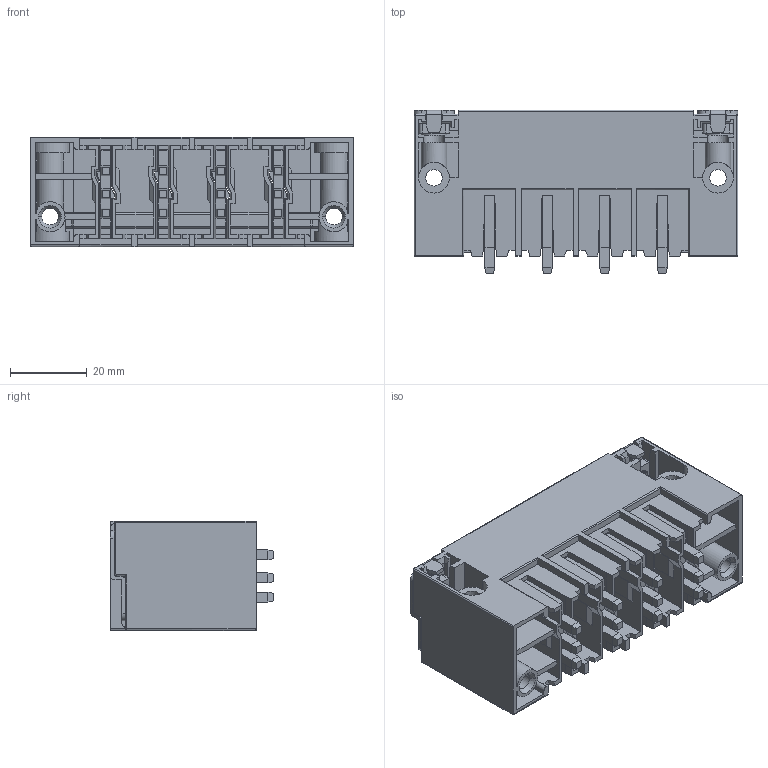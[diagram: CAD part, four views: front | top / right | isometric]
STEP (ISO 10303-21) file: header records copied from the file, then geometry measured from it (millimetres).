
FILE_DESCRIPTION((''),'2;1');
FILE_NAME('ASM0001','2021-05-13T',('renkang.li'),(''),'CREO PARAMETRIC BY PTC INC, 2016260','CREO PARAMETRIC BY PTC INC, 2016260','');
FILE_SCHEMA(('CONFIG_CONTROL_DESIGN'));
Length unit declared in the file: millimetre
Products named in the file (1): ASM0001
Bounding box: 84.4 x 42.6 x 28.5 mm (x, y, z)
Volume: 31929.6 mm3; surface area: 43745.6 mm2
Topology: 3 solids, 3 shells, 1368 faces, 3725 edges, 2377 vertices
Faces by surface type: plane 1148, cylinder 184, cone 20, bspline 10, sphere 6
Entity records: 44464 total; most frequent: CARTESIAN_POINT 9863, ORIENTED_EDGE 7442, DIRECTION 6708, EDGE_CURVE 3721, VECTOR 3268, LINE 3268, VERTEX_POINT 2377, AXIS2_PLACEMENT_3D 1720
